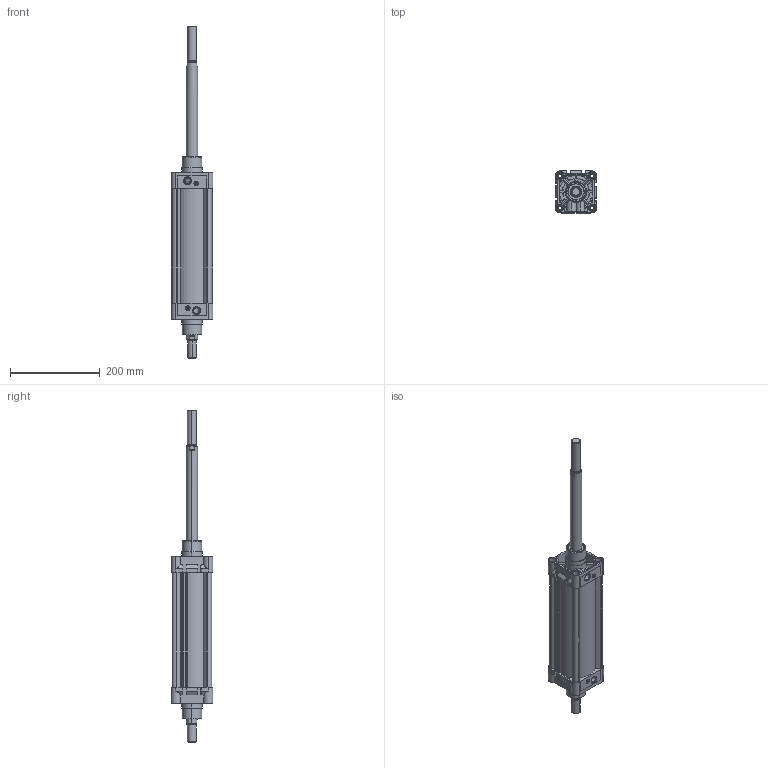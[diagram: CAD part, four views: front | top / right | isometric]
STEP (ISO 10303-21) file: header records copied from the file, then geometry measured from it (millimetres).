
FILE_DESCRIPTION (( 'STEP AP203' ), '1' );
FILE_NAME ('KDNT80X200CIFTMILLI-STROK AYARLI-CYLINDER.STEP', '2015-03-24T10:03:59', ( 'user' ), ( '' ), 'SwSTEP 2.0', 'SolidWorks 2013', '' );
FILE_SCHEMA (( 'CONFIG_CONTROL_DESIGN' ));
Length unit declared in the file: millimetre
Products named in the file (6): 烰 KAPAK  80; ORTA PÝSTON 80 ÇÝFT MÝLLÝ; Piston Mili 80x200; KDNT 80X200 BORU; SAPLAMALI M尳 STROK AYARLI 80x200; KDNT80X200CIFTMILLI-STROK AYARLI-CYLINDER
Assembly tree (6 placements, depth 2):
  KDNT80X200CIFTMILLI-STROK AYARLI-CYLINDER
    烰 KAPAK  80  x2
    ORTA PÝSTON 80 ÇÝFT MÝLLÝ
    Piston Mili 80x200
    KDNT 80X200 BORU
    SAPLAMALI M尳 STROK AYARLI 80x200
Bounding box: 93 x 93.3 x 740 mm (x, y, z)
Volume: 1169408.6 mm3; surface area: 460995.7 mm2
Topology: 6 solids, 6 shells, 1081 faces, 2860 edges, 1835 vertices
Faces by surface type: cylinder 447, plane 320, cone 216, bspline 98
Entity records: 30292 total; most frequent: CARTESIAN_POINT 14045, ORIENTED_EDGE 3560, DIRECTION 2776, EDGE_CURVE 1780, VERTEX_POINT 1148, AXIS2_PLACEMENT_3D 1028, EDGE_LOOP 756, LINE 720
